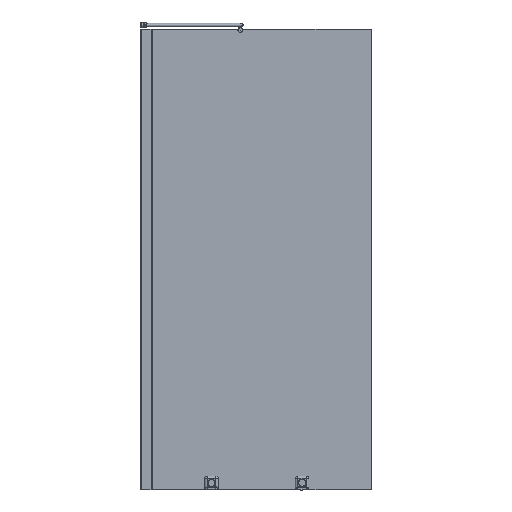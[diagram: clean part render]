
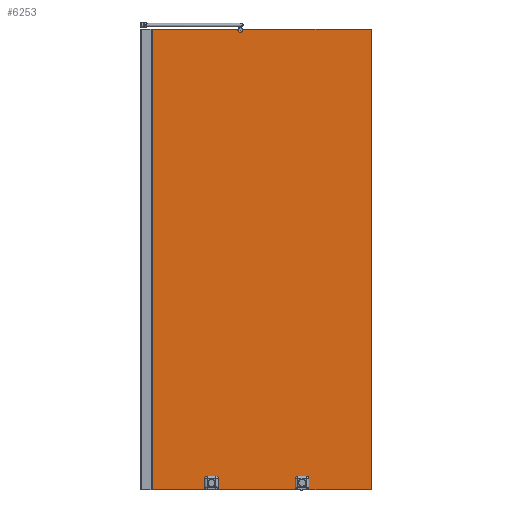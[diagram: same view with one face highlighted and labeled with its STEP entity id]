
A CAD part, left-side view. The second image highlights one B-rep face of the part: STEP entity #6253.
In plain terms, the highlighted planar face has unit normal (-1, 0, 0) as drawn and (0, 1, 0) by its records, which use the part's own axes.
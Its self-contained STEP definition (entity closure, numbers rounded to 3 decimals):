
#325=LINE($,#9386,#827);
#326=LINE($,#9388,#828);
#327=LINE($,#9390,#829);
#328=LINE($,#9391,#830);
#827=VECTOR($,#7444,993.);
#828=VECTOR($,#7445,2000.);
#829=VECTOR($,#7446,993.);
#830=VECTOR($,#7447,2000.);
#1326=PLANE($,#6694);
#1586=FACE_BOUND($,#2109,.T.);
#1587=FACE_BOUND($,#2110,.T.);
#1588=FACE_BOUND($,#2111,.T.);
#1589=FACE_BOUND($,#2112,.T.);
#1590=FACE_BOUND($,#2113,.T.);
#2109=EDGE_LOOP($,(#4402));
#2110=EDGE_LOOP($,(#4403));
#2111=EDGE_LOOP($,(#4404));
#2112=EDGE_LOOP($,(#4405,#4406,#4407,#4408));
#2113=EDGE_LOOP($,(#4409));
#2606=CIRCLE($,#6676,8.);
#2608=CIRCLE($,#6679,8.);
#2616=CIRCLE($,#6693,8.);
#2617=CIRCLE($,#6695,8.);
#2882=VERTEX_POINT($,#9344);
#2884=VERTEX_POINT($,#9349);
#2896=VERTEX_POINT($,#9379);
#2897=VERTEX_POINT($,#9382);
#2898=VERTEX_POINT($,#9384);
#2899=VERTEX_POINT($,#9385);
#2900=VERTEX_POINT($,#9387);
#2901=VERTEX_POINT($,#9389);
#3500=EDGE_CURVE($,#2882,#2882,#2606,.T.);
#3502=EDGE_CURVE($,#2884,#2884,#2608,.T.);
#3514=EDGE_CURVE($,#2896,#2896,#2616,.T.);
#3515=EDGE_CURVE($,#2897,#2897,#2617,.T.);
#3516=EDGE_CURVE($,#2898,#2899,#325,.T.);
#3517=EDGE_CURVE($,#2899,#2900,#326,.T.);
#3518=EDGE_CURVE($,#2901,#2900,#327,.T.);
#3519=EDGE_CURVE($,#2898,#2901,#328,.T.);
#4402=ORIENTED_EDGE($,*,*,#3500,.T.);
#4403=ORIENTED_EDGE($,*,*,#3502,.T.);
#4404=ORIENTED_EDGE($,*,*,#3515,.F.);
#4405=ORIENTED_EDGE($,*,*,#3516,.T.);
#4406=ORIENTED_EDGE($,*,*,#3517,.T.);
#4407=ORIENTED_EDGE($,*,*,#3518,.F.);
#4408=ORIENTED_EDGE($,*,*,#3519,.F.);
#4409=ORIENTED_EDGE($,*,*,#3514,.F.);
#6253=ADVANCED_FACE($,(#1586,#1587,#1588,#1589,#1590),#1326,.T.);
#6676=AXIS2_PLACEMENT_3D($,#9345,#7400,#7401);
#6679=AXIS2_PLACEMENT_3D($,#9350,#7406,#7407);
#6693=AXIS2_PLACEMENT_3D($,#9380,#7438,#7439);
#6694=AXIS2_PLACEMENT_3D($,#9381,#7440,#7441);
#6695=AXIS2_PLACEMENT_3D($,#9383,#7442,#7443);
#7400=DIRECTION('center_axis',(0.,-1.,0.));
#7401=DIRECTION('ref_axis',(-1.,0.,0.));
#7406=DIRECTION('center_axis',(0.,-1.,0.));
#7407=DIRECTION('ref_axis',(-1.,0.,0.));
#7438=DIRECTION('center_axis',(0.,1.,0.));
#7439=DIRECTION('ref_axis',(-1.,0.,0.));
#7440=DIRECTION('center_axis',(0.,1.,0.));
#7441=DIRECTION('ref_axis',(-1.,0.,0.));
#7442=DIRECTION('center_axis',(0.,1.,0.));
#7443=DIRECTION('ref_axis',(-1.,0.,0.));
#7444=DIRECTION($,(-1.,0.,0.));
#7445=DIRECTION($,(0.,0.,1.));
#7446=DIRECTION($,(-1.,0.,0.));
#7447=DIRECTION($,(0.,0.,1.));
#9344=CARTESIAN_POINT('',(701.,8.,1970.));
#9345=CARTESIAN_POINT('Origin',(693.,8.,1970.));
#9349=CARTESIAN_POINT('',(308.,8.,1970.));
#9350=CARTESIAN_POINT('Origin',(300.,8.,1970.));
#9379=CARTESIAN_POINT('',(30.,8.,1660.));
#9380=CARTESIAN_POINT('Origin',(22.,8.,1660.));
#9381=CARTESIAN_POINT('Origin',(993.,8.,0.));
#9382=CARTESIAN_POINT('',(30.,8.,340.));
#9383=CARTESIAN_POINT('Origin',(22.,8.,340.));
#9384=CARTESIAN_POINT('',(993.,8.,0.));
#9385=CARTESIAN_POINT('',(0.,8.,0.));
#9386=CARTESIAN_POINT($,(993.,8.,0.));
#9387=CARTESIAN_POINT('',(0.,8.,2000.));
#9388=CARTESIAN_POINT($,(0.,8.,0.));
#9389=CARTESIAN_POINT('',(993.,8.,2000.));
#9390=CARTESIAN_POINT($,(993.,8.,2000.));
#9391=CARTESIAN_POINT($,(993.,8.,0.));
